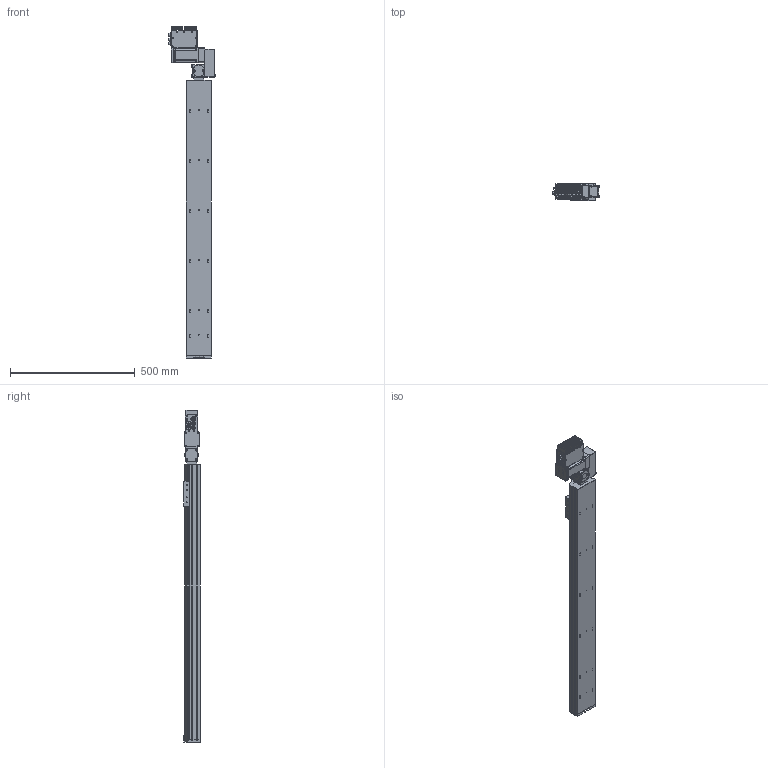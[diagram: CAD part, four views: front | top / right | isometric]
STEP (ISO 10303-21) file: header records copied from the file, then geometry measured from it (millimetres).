
FILE_DESCRIPTION (( 'STEP AP203' ), '1' );
FILE_NAME ('S10 TBN RH S1100.STEP', '2012-06-18T09:22:57', ( 'Conseil Régional Haute-Normandie' ), ( 'Conseil Régional Haute-Normandie' ), 'SwSTEP 2.0', 'SolidWorks 2010', '' );
FILE_SCHEMA (( 'CONFIG_CONTROL_DESIGN' ));
Length unit declared in the file: millimetre
Products named in the file (29): embout; Plaque racord_Default; BU41 Carte Alimentation P05_3; renvoi LH_Default; Colonnette_3; T_X2_00F4_X0_le contre le moteur_5; Connecteur rond D10 3cts_5; Sub D 9cts 90_X2_00B_X0__3; Connecteur rond D12 4cts_5; Vis TF 3 torkx; Vis TF 3 torkx_1_1; S10 TBN RH S1100; axe 1100; palette tbn; cache t皻e axe_Default; cache t皻e_Default; Copie de plaque de bout s10_Default^S10 TBN RH S1100; vis M5 L12_Default; vis M5 L5_Default; Vis M5 L16-2_Default_1; Assem1_7; BU45 Carte d''axe A11_5; Moteur 60BLDC90A_3; Couvercle_3; T_X2_00F4_X0_le fond_3; Radiateur profil_X2_00E9_X0_ 100x25_3; Colonnette ronde_3; T_X2_00F4_X0_le Arri_X2_00E8_X0_re_5; T_X2_00F4_X0_le lat_X2_00E9_X0_rale_5
Assembly tree (73 placements, depth 3):
  S10 TBN RH S1100
    vis M5 L12_Default  x4
    Vis M5 L16-2_Default_1  x10
    Vis TF 3 torkx  x7
    cache t皻e axe_Default
    cache t皻e_Default  x2
    axe 1100
    vis M5 L5_Default  x4
    palette tbn
    renvoi LH_Default
    Copie de plaque de bout s10_Default^S10 TBN RH S1100
    embout
    Assem1_7
      Vis TF 3 torkx_1_1  x21
      BU41 Carte Alimentation P05_3
      Sub D 9cts 90_X2_00B_X0__3
      Radiateur profil_X2_00E9_X0_ 100x25_3
      T_X2_00F4_X0_le contre le moteur_5
      BU45 Carte d''axe A11_5
      Couvercle_3
      T_X2_00F4_X0_le Arri_X2_00E8_X0_re_5
      T_X2_00F4_X0_le lat_X2_00E9_X0_rale_5  x2
      Colonnette ronde_3
      Colonnette_3  x2
      T_X2_00F4_X0_le fond_3
      Moteur 60BLDC90A_3
      Connecteur rond D10 3cts_5  x2
      Connecteur rond D12 4cts_5
    Plaque racord_Default
Bounding box: 191.1 x 66.75 x 1328.5 mm (x, y, z)
Volume: 6597550 mm3; surface area: 860380 mm2
Topology: 72 solids, 72 shells, 2594 faces, 6405 edges, 4123 vertices
Faces by surface type: plane 1272, cylinder 1067, cone 204, bspline 48, torus 3
Entity records: 48110 total; most frequent: CARTESIAN_POINT 8607, DIRECTION 7726, ORIENTED_EDGE 7014, EDGE_CURVE 3507, AXIS2_PLACEMENT_3D 2863, VERTEX_POINT 2289, VECTOR 2000, LINE 2000
